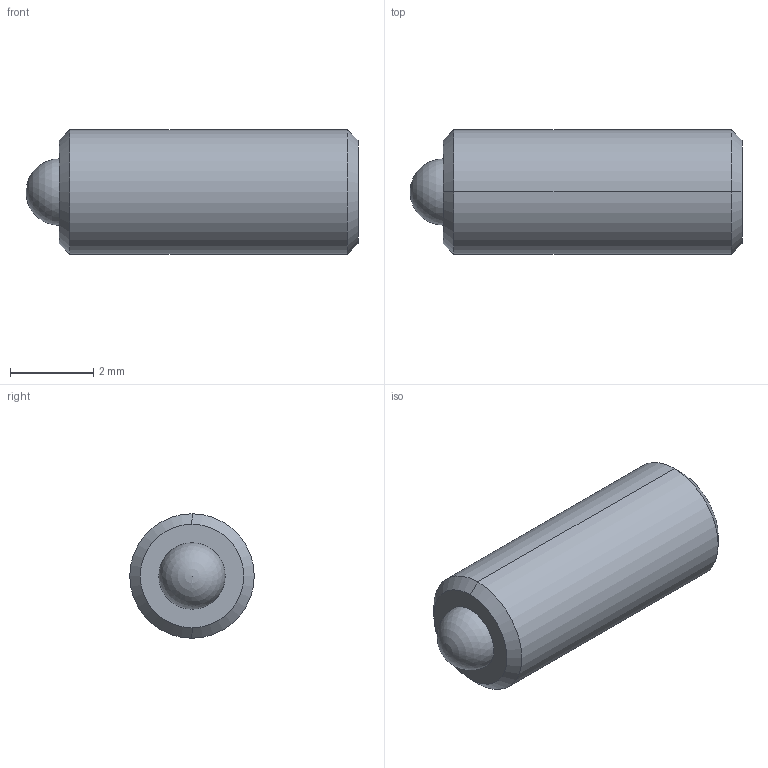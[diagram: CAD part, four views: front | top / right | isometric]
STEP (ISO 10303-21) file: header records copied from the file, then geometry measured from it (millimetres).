
FILE_DESCRIPTION (( 'STEP AP214' ), '1' );
FILE_NAME ('TS3-25-08.STEP', '2013-02-13T16:09:38', ( 'workpc' ), ( 'Microsoft' ), 'SwSTEP 2.0', 'SolidWorks 2013', '' );
FILE_SCHEMA (( 'AUTOMOTIVE_DESIGN' ));
Length unit declared in the file: millimetre
Products named in the file (1): TS3-25-08
Bounding box: 8 x 3 x 3 mm (x, y, z)
Volume: 47 mm3; surface area: 101.5 mm2
Topology: 2 solids, 2 shells, 20 faces, 45 edges, 29 vertices
Faces by surface type: plane 10, cylinder 4, cone 4, sphere 2
Entity records: 587 total; most frequent: DIRECTION 96, CARTESIAN_POINT 87, ORIENTED_EDGE 80, EDGE_CURVE 40, AXIS2_PLACEMENT_3D 35, LINE 26, VERTEX_POINT 26, VECTOR 26
